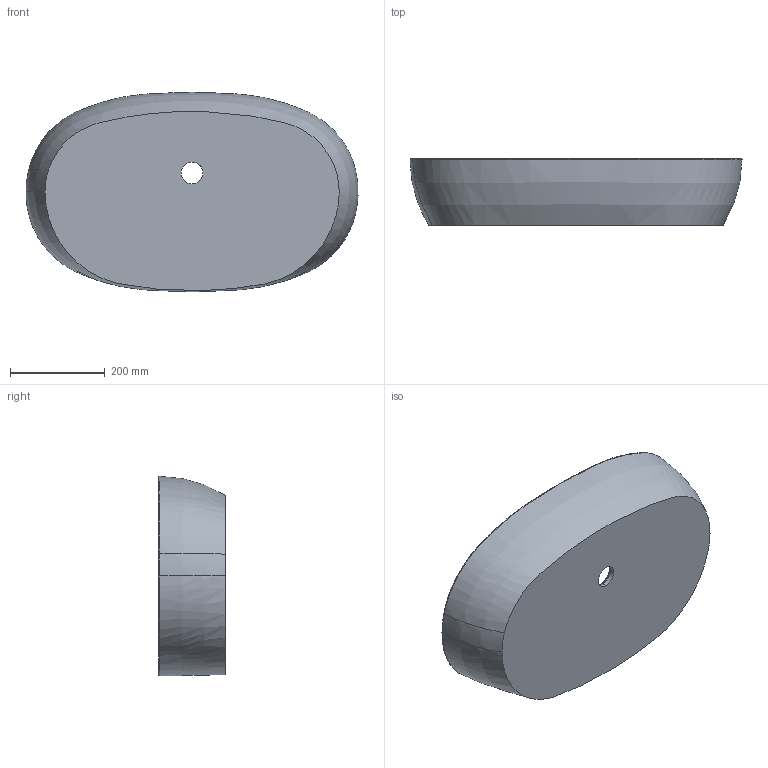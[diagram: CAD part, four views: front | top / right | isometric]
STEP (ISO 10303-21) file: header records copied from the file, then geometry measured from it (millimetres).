
FILE_DESCRIPTION(/* description */ (''),/* implementation_level */ '2;1');
FILE_NAME(/* name */ 'ECI70',/* time_stamp */ '2017-12-11T12:19:38+01:00',/* author */ (''),/* organization */ (''),/* preprocessor_version */ 'ST-DEVELOPER v15',/* originating_system */ '',/* authorisation */ '');
FILE_SCHEMA (('AUTOMOTIVE_DESIGN'));
Length unit declared in the file: millimetre
Products named in the file (1): Document
Bounding box: 699.69 x 140 x 419.99 mm (x, y, z)
Surface area: 801305.9 mm2 (no closed solid volume)
Topology: 0 solids, 2 shells, 46 faces, 129 edges, 87 vertices
Faces by surface type: bspline 42, plane 4
Entity records: 8788 total; most frequent: CARTESIAN_POINT 8111, ORIENTED_EDGE 234, EDGE_CURVE 124, VERTEX_POINT 71, EDGE_LOOP 48, ADVANCED_FACE 46, FACE_OUTER_BOUND 46, B_SPLINE_CURVE_WITH_KNOTS 42
